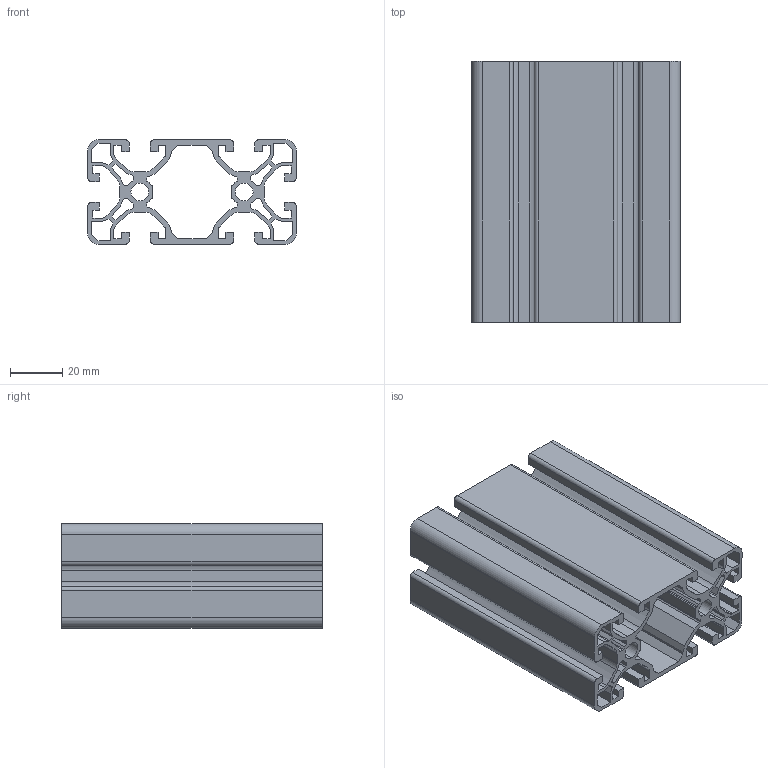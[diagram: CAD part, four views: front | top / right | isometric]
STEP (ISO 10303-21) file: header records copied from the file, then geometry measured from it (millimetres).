
FILE_DESCRIPTION (( 'STEP AP203' ), '1' );
FILE_NAME ('0108P8040E.STEP', '2024-02-29T10:32:31', ( 'Windows-Benutzer' ), ( '' ), 'SwSTEP 2.0', 'SolidWorks 2023', '' );
FILE_SCHEMA (( 'CONFIG_CONTROL_DESIGN' ));
Length unit declared in the file: millimetre
Products named in the file (1): 0108P8040E
Bounding box: 80 x 100 x 40 mm (x, y, z)
Volume: 89496.4 mm3; surface area: 92646.2 mm2
Topology: 1 solids, 1 shells, 290 faces, 864 edges, 576 vertices
Faces by surface type: plane 234, cylinder 56
Entity records: 9761 total; most frequent: CARTESIAN_POINT 1731, ORIENTED_EDGE 1728, DIRECTION 1558, EDGE_CURVE 864, VECTOR 752, LINE 752, VERTEX_POINT 576, AXIS2_PLACEMENT_3D 403
